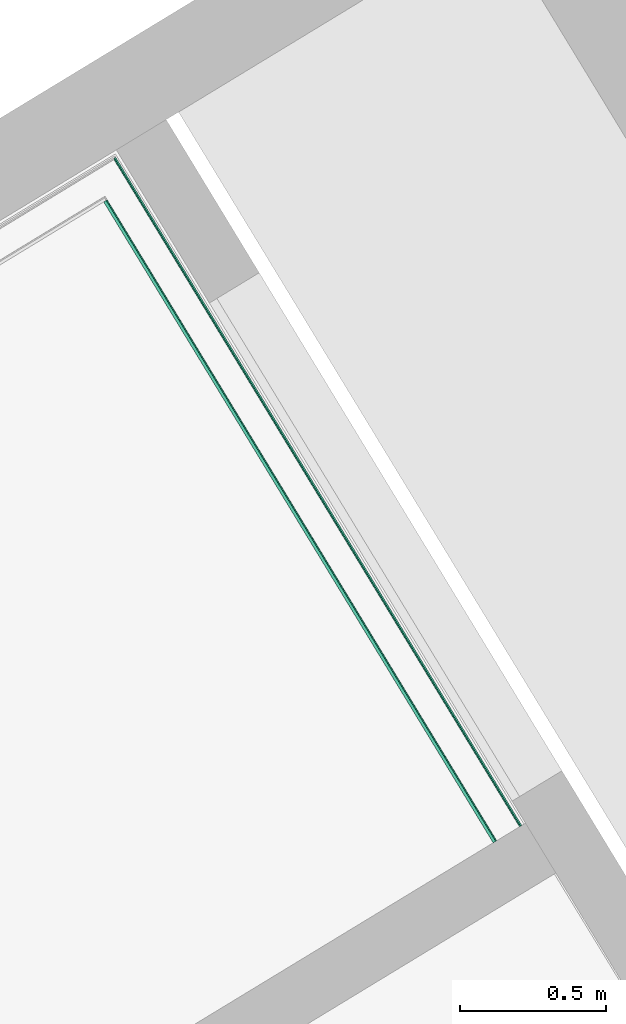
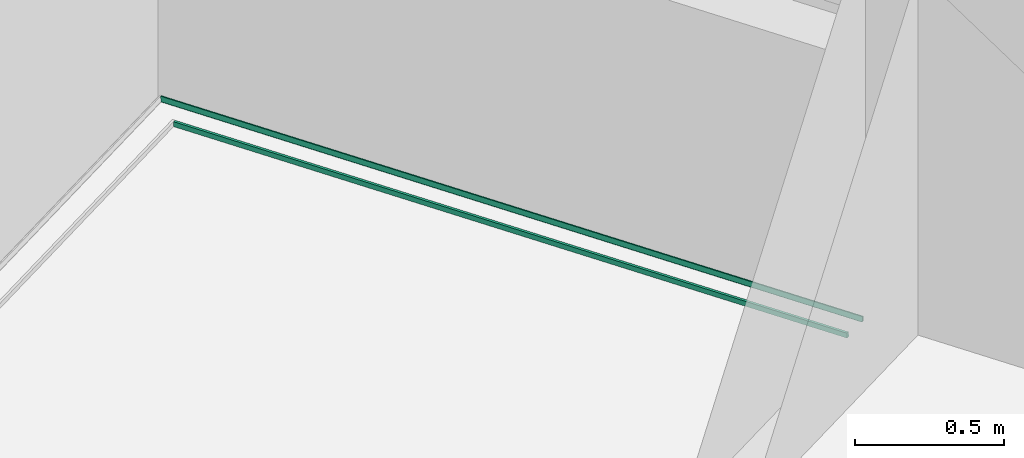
# One storey, part 18 of 20: 1 flow terminal.
"""IFC2X3 building model written with IfcOpenShell, lengths in metres."""

from ifc_helpers import new_model, entity, si_unit, converted_unit, derived_unit, money_unit, direction, frame, origin_with_axes, place, context, subcontext, project, spatial, faceted_brep, material, type_object, element, save


model = new_model("IFC2X3")

# Units and contexts
model_context = context("Model", 3, precision=1e-05, world=origin_with_axes(), true_north=direction((0.0, 1.0)))
body_context = subcontext(model_context, "Body", "Model", "MODEL_VIEW")
ifc_project = project(units=[si_unit("LENGTHUNIT", "METRE"), si_unit("AREAUNIT", "SQUARE_METRE"), si_unit("VOLUMEUNIT", "CUBIC_METRE"), converted_unit("PLANEANGLEUNIT", "DEGREE", entity("IfcPlaneAngleMeasure", 0.0174532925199), si_unit("PLANEANGLEUNIT", "RADIAN"), dimensions=[0, 0, 0, 0, 0, 0, 0]), si_unit("SOLIDANGLEUNIT", "STERADIAN"), money_unit("EUR"), converted_unit("TIMEUNIT", "Year", entity("IfcTimeMeasure", 31556926.0), si_unit("TIMEUNIT", "SECOND"), dimensions=[0, 0, 1, 0, 0, 0, 0]), si_unit("MASSUNIT", "GRAM", prefix="KILO"), si_unit("THERMODYNAMICTEMPERATUREUNIT", "DEGREE_CELSIUS"), si_unit("LUMINOUSINTENSITYUNIT", "LUMEN"), si_unit("ENERGYUNIT", "JOULE", prefix="MEGA"), derived_unit("THERMALCONDUCTANCEUNIT", [(si_unit("POWERUNIT", "WATT"), 1), (si_unit("LENGTHUNIT", "METRE"), -1), (si_unit("THERMODYNAMICTEMPERATUREUNIT", "KELVIN"), -1)]), derived_unit("SPECIFICHEATCAPACITYUNIT", [(si_unit("ENERGYUNIT", "JOULE"), 1), (si_unit("MASSUNIT", "GRAM", prefix="KILO"), -1), (si_unit("THERMODYNAMICTEMPERATUREUNIT", "KELVIN"), -1)]), derived_unit("MASSDENSITYUNIT", [(si_unit("MASSUNIT", "GRAM", prefix="KILO"), 1), (si_unit("VOLUMEUNIT", "CUBIC_METRE"), -1)])], contexts=[model_context])

# Site, building, storey
site_placement = place(None, origin_with_axes())
site = spatial("IfcSite", under=ifc_project, at=site_placement, Name="Site", CompositionType="ELEMENT")
building_placement = place(site_placement, origin_with_axes())
building = spatial("IfcBuilding", under=site, at=building_placement, Name="Bâtiment", CompositionType="ELEMENT")
storey_placement = place(building_placement, frame((0.0, 0.0, -2.9), z_axis=(0.0, 0.0, 1.0), x_axis=(1.0, 0.0, 0.0)))
storey = spatial("IfcBuildingStorey", under=building, at=storey_placement, Name="Sous-sol", CompositionType="ELEMENT", Elevation=-2.9)

# Flow terminal
ifc_material = material(Name="Finition sol - Carrelage")
waste_terminal_type = type_object("IfcWasteTerminalType", Name="Cunette 115 x 60", PredefinedType="GULLYSUMP")
flow_terminal_placement = place(storey_placement, frame((0.267679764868, 25.7416892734, -0.04), z_axis=(0.0, 0.0, 1.0), x_axis=(0.519386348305, -0.854539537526, 0.0)))
element("IfcFlowTerminal", 1, at=flow_terminal_placement, inside=storey, type_object=waste_terminal_type, material=ifc_material, Name="M_Ext-012", context=body_context, shape_type="Brep", body=[
    faceted_brep([(2.69339483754, -0.12, 0.0599999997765), (2.69339483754, -0.119999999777, 0.04), (2.69339483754, -0.105615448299, 0.04), (2.69339483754, -0.106193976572, 0.0408658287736), (2.69339483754, -0.109999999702, 0.0599999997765), (0.12, -0.12, 0.0599999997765), (0.12, -0.119999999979, 0.04), (0.12, -0.105615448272, 0.04), (0.12, -0.106193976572, 0.0408658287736), (0.12, -0.109999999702, 0.0599999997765)], [[[0, 1, 2, 3, 4]], [[5, 6, 1, 0]], [[6, 7, 2, 1]], [[3, 2, 7, 8]], [[4, 3, 8, 9]], [[0, 4, 9, 5]], [[8, 7, 6, 5, 9]]]),
    faceted_brep([(2.69339483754, -0.0138060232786, 0.0408658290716), (2.69339483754, -0.0143845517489, 0.04), (2.69339483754, -0.00500000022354, 0.04), (2.69339483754, -0.00500000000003, 0.0600000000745), (2.69339483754, -0.010000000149, 0.0600000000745), (0.0138060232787, -0.0138060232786, 0.0408658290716), (0.0143845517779, -0.0143845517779, 0.04), (0.0143845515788, -0.00500000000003, 0.04), (0.0138060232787, -0.00500000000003, 0.0408658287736), (0.0100000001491, -0.00500000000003, 0.0600000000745), (0.0100000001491, -0.010000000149, 0.0600000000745)], [[[0, 1, 2, 3, 4]], [[5, 6, 1, 0]], [[6, 7, 2, 1]], [[3, 2, 7, 8, 9]], [[4, 3, 9, 10]], [[0, 4, 10, 5]], [[8, 7, 6, 5]], [[10, 9, 8, 5]]]),
])

save(model, "model.ifc")
